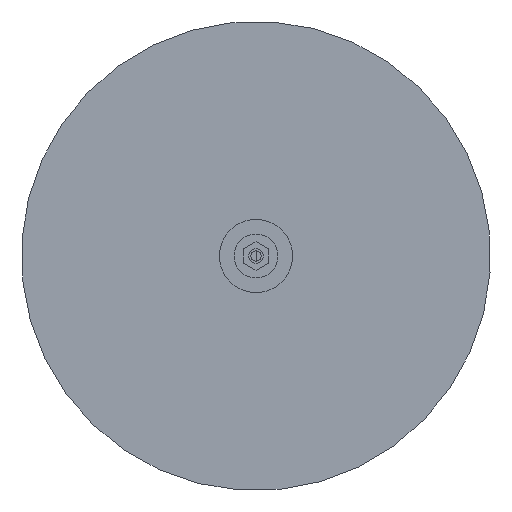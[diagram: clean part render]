
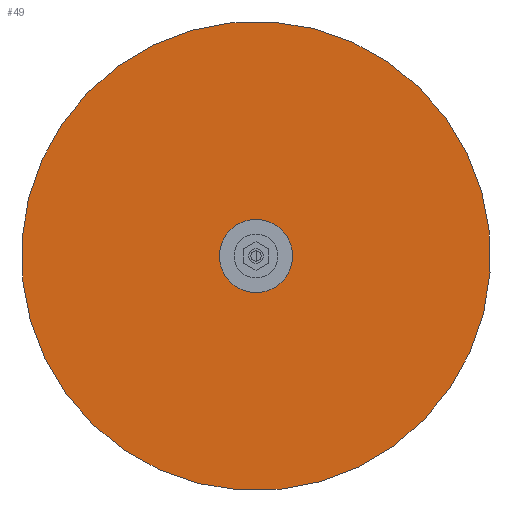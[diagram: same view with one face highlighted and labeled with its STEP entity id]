
A CAD part, front view. The second image highlights one B-rep face of the part: STEP entity #49.
In plain terms, the highlighted planar face has unit normal (0, -1, 0).
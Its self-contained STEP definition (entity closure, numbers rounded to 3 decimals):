
#11 = EDGE_LOOP ( 'NONE', ( #1295, #1333 ) ) ;
#49 = ADVANCED_FACE ( 'NONE', ( #2051, #1631 ), #1195, .F. ) ;
#58 = AXIS2_PLACEMENT_3D ( 'NONE', #3386, #2018, #3115 ) ;
#183 = DIRECTION ( 'NONE',  ( 0., 0., -1. ) ) ;
#219 = AXIS2_PLACEMENT_3D ( 'NONE', #1809, #1498, #183 ) ;
#423 = CARTESIAN_POINT ( 'NONE',  ( 0., 0., 0. ) ) ;
#460 = CIRCLE ( 'NONE', #58, 160. ) ;
#672 = DIRECTION ( 'NONE',  ( 0., 0., -1. ) ) ;
#677 = DIRECTION ( 'NONE',  ( 0., -1., 0. ) ) ;
#1195 = PLANE ( 'NONE',  #1392 ) ;
#1208 = DIRECTION ( 'NONE',  ( 0., 0., 1. ) ) ;
#1242 = CARTESIAN_POINT ( 'NONE',  ( 0., 0., -160. ) ) ;
#1295 = ORIENTED_EDGE ( 'NONE', *, *, #2758, .F. ) ;
#1333 = ORIENTED_EDGE ( 'NONE', *, *, #1483, .F. ) ;
#1360 = DIRECTION ( 'NONE',  ( 0., 0., 1. ) ) ;
#1392 = AXIS2_PLACEMENT_3D ( 'NONE', #423, #1787, #1208 ) ;
#1422 = EDGE_LOOP ( 'NONE', ( #3506, #2142 ) ) ;
#1460 = CARTESIAN_POINT ( 'NONE',  ( 0., 0., 0. ) ) ;
#1483 = EDGE_CURVE ( 'NONE', #1889, #2307, #3410, .T. ) ;
#1498 = DIRECTION ( 'NONE',  ( 0., -1., 0. ) ) ;
#1554 = CIRCLE ( 'NONE', #219, 25. ) ;
#1631 = FACE_OUTER_BOUND ( 'NONE', #11, .T. ) ;
#1677 = VERTEX_POINT ( 'NONE', #3282 ) ;
#1787 = DIRECTION ( 'NONE',  ( 0., 1., 0. ) ) ;
#1809 = CARTESIAN_POINT ( 'NONE',  ( 0., 0., 0. ) ) ;
#1889 = VERTEX_POINT ( 'NONE', #2609 ) ;
#2018 = DIRECTION ( 'NONE',  ( 0., 1., 0. ) ) ;
#2051 = FACE_BOUND ( 'NONE', #1422, .T. ) ;
#2142 = ORIENTED_EDGE ( 'NONE', *, *, #3123, .F. ) ;
#2180 = CARTESIAN_POINT ( 'NONE',  ( 0., 0., 25. ) ) ;
#2307 = VERTEX_POINT ( 'NONE', #1242 ) ;
#2428 = CARTESIAN_POINT ( 'NONE',  ( 0., 0., 0. ) ) ;
#2609 = CARTESIAN_POINT ( 'NONE',  ( 0., 0., 160. ) ) ;
#2651 = AXIS2_PLACEMENT_3D ( 'NONE', #1460, #677, #672 ) ;
#2758 = EDGE_CURVE ( 'NONE', #2307, #1889, #460, .T. ) ;
#2965 = DIRECTION ( 'NONE',  ( 0., 1., 0. ) ) ;
#3115 = DIRECTION ( 'NONE',  ( 0., 0., 1. ) ) ;
#3118 = VERTEX_POINT ( 'NONE', #2180 ) ;
#3123 = EDGE_CURVE ( 'NONE', #3118, #1677, #3394, .T. ) ;
#3171 = AXIS2_PLACEMENT_3D ( 'NONE', #2428, #2965, #1360 ) ;
#3218 = EDGE_CURVE ( 'NONE', #1677, #3118, #1554, .T. ) ;
#3282 = CARTESIAN_POINT ( 'NONE',  ( 0., 0., -25. ) ) ;
#3386 = CARTESIAN_POINT ( 'NONE',  ( 0., 0., 0. ) ) ;
#3394 = CIRCLE ( 'NONE', #2651, 25. ) ;
#3410 = CIRCLE ( 'NONE', #3171, 160. ) ;
#3506 = ORIENTED_EDGE ( 'NONE', *, *, #3218, .F. ) ;
